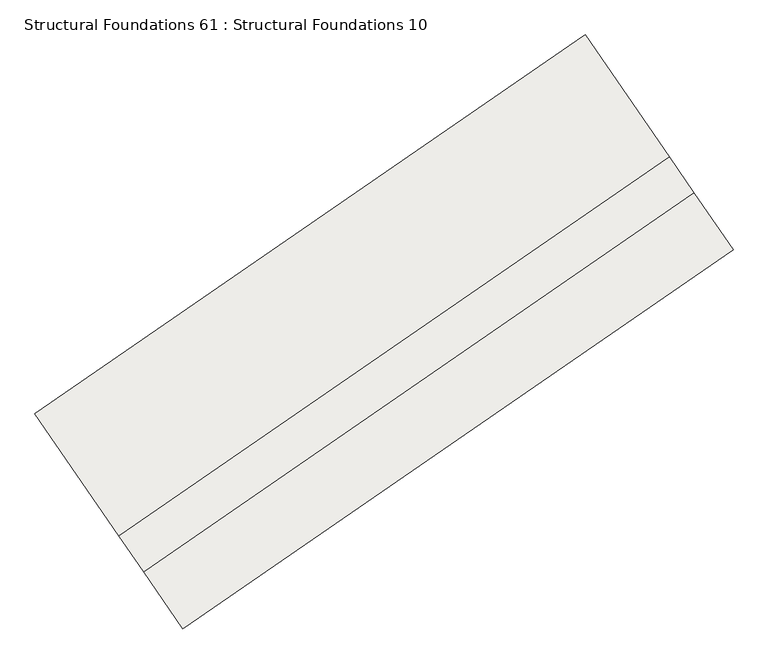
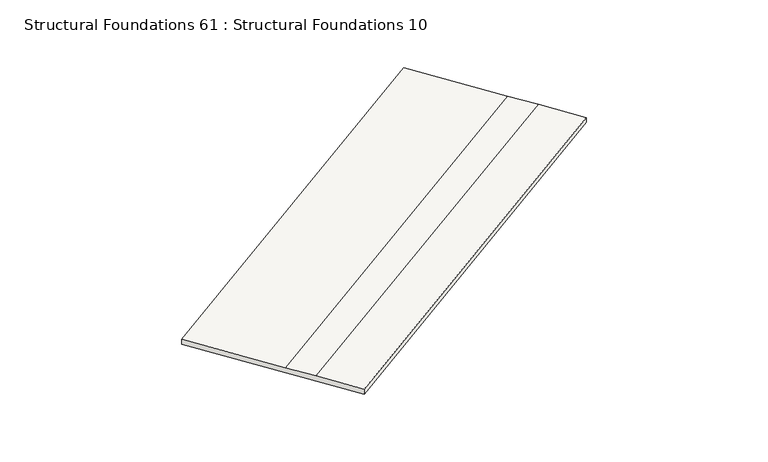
"""IFC4 building model written with IfcOpenShell, lengths in millimetres: slab geometry, Structural Foundations 61 : Structural Foundations 10."""

from ifc_helpers import new_model, si_unit, origin, place, context, project, spatial, faceted_brep, source, transform, mapped, element, save


def structural_foundations_61_structural_foundations_10_e07404c3(model_context):
    return source(origin(), model_context, "Body", "Brep", [
        faceted_brep([(-352362.4862841, -444071.1855758, 633768.0000009), (-351268.0244172, -445660.0724209, 633768.0000004), (-350944.3151347, -446130.017913, 633768.0000003), (-350433.773521, -446871.1975542, 633768.0), (-350433.773521, -446871.1975542, 633668.0), (-352362.4862841, -444071.1855758, 633668.0000009), (-359527.2228165, -449006.4211752, 633694.0000009), (-359527.2228165, -449006.4211752, 633594.0000009), (-357598.5100534, -451806.4331536, 633594.0000001), (-357598.5100534, -451806.4331536, 633694.0000001), (-358109.051667, -451065.2535124, 633694.0000003), (-358432.7609496, -450595.3080203, 633694.0000005)], [[[0, 1, 2, 3, 4, 5]], [[6, 7, 8, 9, 10, 11]], [[6, 11, 1, 0]], [[11, 10, 2, 1]], [[10, 9, 3, 2]], [[9, 8, 4, 3]], [[8, 7, 5, 4]], [[7, 6, 0, 5]]]),
    ])


if __name__ == "__main__":
    model = new_model("IFC4")
    model_context = context("Model", 3, world=origin())
    ifc_project = project(units=[si_unit("LENGTHUNIT", "METRE", prefix="MILLI")], contexts=[model_context])
    site = spatial("IfcSite", under=ifc_project)
    building = spatial("IfcBuilding", under=site)
    placement = place(None, origin())
    structural_foundations_61_structural_foundations_10_shape = structural_foundations_61_structural_foundations_10_e07404c3(model_context)
    element("IfcSlab", 1, ObjectType="Structural Foundations 61 : Structural Foundations 10", at=placement, inside=building, context=model_context, shape_type="MappedRepresentation", body=[
        mapped(structural_foundations_61_structural_foundations_10_shape, transform((0.0, 0.0, 0.0), x_axis=(1.0, 0.0, 0.0), y_axis=(0.0, 1.0, 0.0), z_axis=(0.0, 0.0, 1.0))),
    ])
    save(model, "model.ifc")
